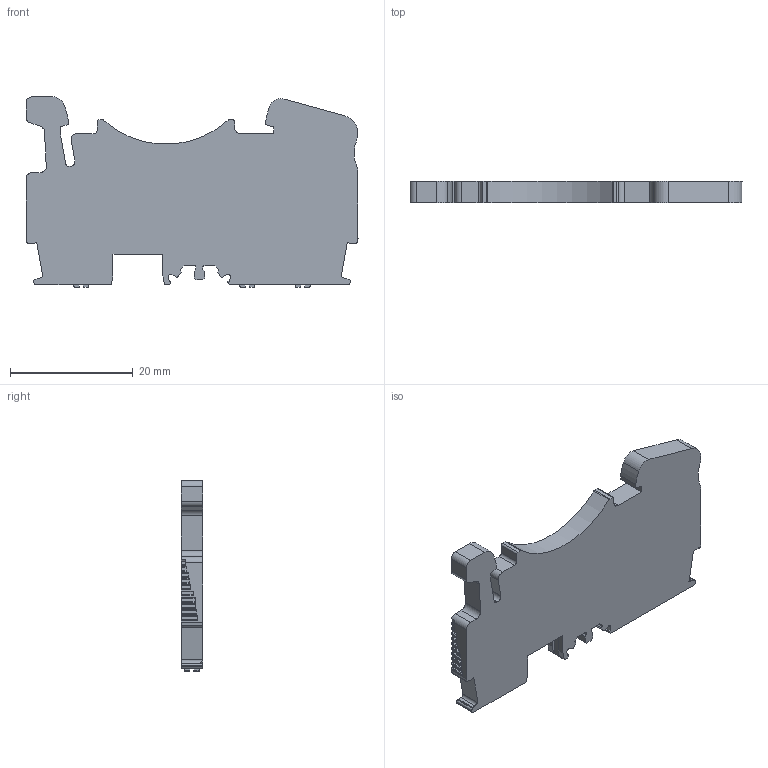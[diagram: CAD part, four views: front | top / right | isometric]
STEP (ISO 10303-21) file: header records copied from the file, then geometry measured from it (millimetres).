
FILE_DESCRIPTION(/* description */ ('Unknown'),/* implementation_level */ '2;1');
FILE_NAME(/* name */ 'DS1.5-TW-01P-1Y-00A(H)-T0-C',/* time_stamp */ '2022-03-14T13:59:31+08:00',/* author */ ('Unknown'),/* organization */ ('Unknown'),/* preprocessor_version */ 'ST-DEVELOPER v16.7',/* originating_system */ 'Solid Edge',/* authorisation */ 'Unknown');
FILE_SCHEMA (('AUTOMOTIVE_DESIGN {1 0 10303 214 3 1 1}'));
Length unit declared in the file: millimetre
Products named in the file (1): DS1
Bounding box: 54 x 3.5 x 31.02 mm (x, y, z)
Volume: 4310.9 mm3; surface area: 3792.6 mm2
Topology: 1 solids, 1 shells, 535 faces, 1568 edges, 1039 vertices
Faces by surface type: plane 425, cylinder 102, bspline 6, cone 2
Entity records: 17754 total; most frequent: CARTESIAN_POINT 3362, ORIENTED_EDGE 3136, DIRECTION 2832, EDGE_CURVE 1568, LINE 1302, VECTOR 1302, VERTEX_POINT 1039, AXIS2_PLACEMENT_3D 765
